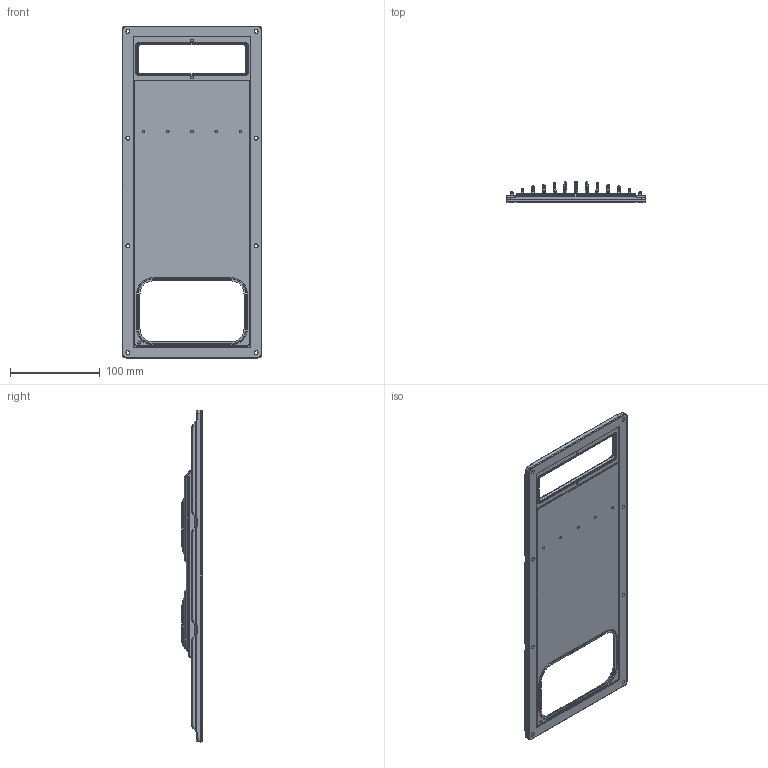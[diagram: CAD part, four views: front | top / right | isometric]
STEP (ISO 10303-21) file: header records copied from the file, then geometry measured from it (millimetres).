
FILE_DESCRIPTION((''),'2;1');
FILE_NAME('ME000472_REV01','2010-02-13T',('carlo'),(''),'PRO/ENGINEER BY PARAMETRIC TECHNOLOGY CORPORATION, 2006460','PRO/ENGINEER BY PARAMETRIC TECHNOLOGY CORPORATION, 2006460','');
FILE_SCHEMA(('CONFIG_CONTROL_DESIGN'));
Products named in the file (1): ME000472_REV01
Bounding box: 155 x 23 x 370 mm (x, y, z)
Volume: 394571 mm3; surface area: 149753.2 mm2
Topology: 1 solids, 9 shells, 1331 faces, 3165 edges, 1868 vertices
Faces by surface type: cylinder 514, plane 361, bspline 300, torus 72, cone 48, extrusion 30, sphere 6
Entity records: 76685 total; most frequent: CARTESIAN_POINT 47960, ORIENTED_EDGE 6298, DIRECTION 5495, EDGE_CURVE 3165, AXIS2_PLACEMENT_3D 1978, VERTEX_POINT 1868, VECTOR 1539, LINE 1509
